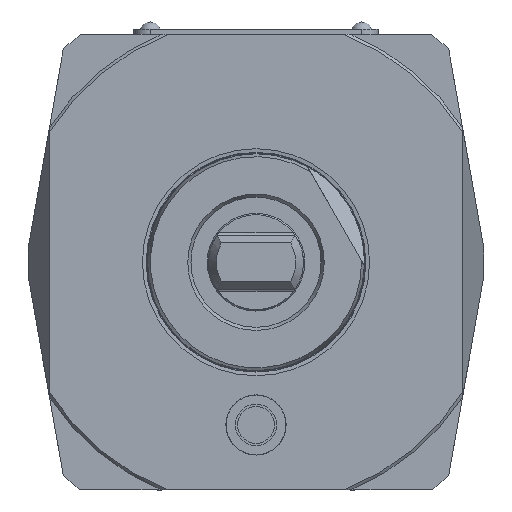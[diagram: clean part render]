
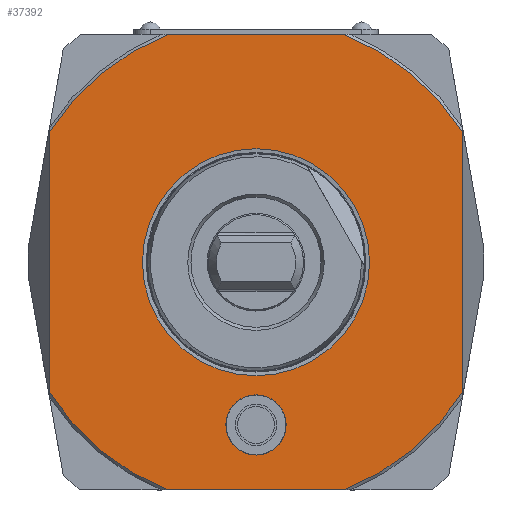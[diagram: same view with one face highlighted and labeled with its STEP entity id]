
A CAD part, left-side view. The second image highlights one B-rep face of the part: STEP entity #37392.
In plain terms, the highlighted planar face has unit normal (-1, 0, 0).
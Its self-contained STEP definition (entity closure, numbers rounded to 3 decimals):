
#16052=VECTOR('',#24981,1.);
#16065=VECTOR('',#25018,1.);
#16078=VECTOR('',#25065,1.);
#16079=VECTOR('',#25070,1.);
#16776=LINE('',#27835,#16052);
#16789=LINE('',#27873,#16065);
#16802=LINE('',#27921,#16078);
#16803=LINE('',#27925,#16079);
#17497=PLANE('',#36499);
#18256=ORIENTED_EDGE('',*,*,#22156,.F.);
#18257=ORIENTED_EDGE('',*,*,#22198,.F.);
#18258=ORIENTED_EDGE('',*,*,#22199,.F.);
#18259=ORIENTED_EDGE('',*,*,#22200,.F.);
#18260=ORIENTED_EDGE('',*,*,#22175,.F.);
#18261=ORIENTED_EDGE('',*,*,#22201,.F.);
#18262=ORIENTED_EDGE('',*,*,#22202,.F.);
#18263=ORIENTED_EDGE('',*,*,#22196,.F.);
#18264=ORIENTED_EDGE('',*,*,#22203,.F.);
#18265=ORIENTED_EDGE('',*,*,#22204,.F.);
#20850=CIRCLE('',#36497,45.);
#20851=CIRCLE('',#36500,45.);
#20852=CIRCLE('',#36501,45.);
#20853=CIRCLE('',#36502,45.);
#20854=CIRCLE('',#36503,20.94);
#20855=CIRCLE('',#36504,5.55);
#21194=VERTEX_POINT('',#27832);
#21195=VERTEX_POINT('',#27834);
#21207=VERTEX_POINT('',#27870);
#21208=VERTEX_POINT('',#27872);
#21224=VERTEX_POINT('',#27914);
#21225=VERTEX_POINT('',#27918);
#21226=VERTEX_POINT('',#27920);
#21227=VERTEX_POINT('',#27923);
#21228=VERTEX_POINT('',#27926);
#21229=VERTEX_POINT('',#27928);
#22156=EDGE_CURVE('',#21194,#21195,#16776,.T.);
#22175=EDGE_CURVE('',#21207,#21208,#16789,.T.);
#22196=EDGE_CURVE('',#21195,#21224,#20850,.T.);
#22198=EDGE_CURVE('',#21225,#21194,#20851,.T.);
#22199=EDGE_CURVE('',#21226,#21225,#16802,.T.);
#22200=EDGE_CURVE('',#21208,#21226,#20852,.T.);
#22201=EDGE_CURVE('',#21227,#21207,#20853,.T.);
#22202=EDGE_CURVE('',#21224,#21227,#16803,.T.);
#22203=EDGE_CURVE('',#21228,#21228,#20854,.T.);
#22204=EDGE_CURVE('',#21229,#21229,#20855,.T.);
#23496=EDGE_LOOP('',(#18256,#18257,#18258,#18259,#18260,#18261,#18262,#18263));
#23497=EDGE_LOOP('',(#18264));
#23498=EDGE_LOOP('',(#18265));
#24204=FACE_BOUND('',#23496,.T.);
#24205=FACE_BOUND('',#23497,.T.);
#24206=FACE_BOUND('',#23498,.T.);
#24981=DIRECTION('',(0.,32.311,0.));
#25018=DIRECTION('',(0.,-32.311,0.));
#25057=DIRECTION('',(1.,0.,0.));
#25058=DIRECTION('',(0.,16.155,-42.));
#25061=DIRECTION('',(-1.,0.,0.));
#25062=DIRECTION('',(0.,1.,0.));
#25063=DIRECTION('',(1.,0.,0.));
#25064=DIRECTION('',(0.,-38.303,-23.62));
#25065=DIRECTION('',(0.,0.,-48.208));
#25066=DIRECTION('',(1.,0.,0.));
#25067=DIRECTION('',(0.,-16.155,42.));
#25068=DIRECTION('',(1.,0.,0.));
#25069=DIRECTION('',(0.,38.303,23.62));
#25070=DIRECTION('',(0.,0.,48.208));
#25071=DIRECTION('',(-1.,0.,0.));
#25072=DIRECTION('',(0.,-18.134,10.47));
#25073=DIRECTION('',(-1.,0.,0.));
#25074=DIRECTION('',(0.,-4.806,2.775));
#27832=CARTESIAN_POINT('',(-2.171,-18.624,58.084));
#27834=CARTESIAN_POINT('',(-2.171,13.687,58.084));
#27835=CARTESIAN_POINT('',(-2.171,-18.624,58.084));
#27870=CARTESIAN_POINT('',(-2.171,13.687,142.084));
#27872=CARTESIAN_POINT('',(-2.171,-18.624,142.084));
#27873=CARTESIAN_POINT('',(-2.171,13.687,142.084));
#27914=CARTESIAN_POINT('',(-2.171,35.532,75.98));
#27915=CARTESIAN_POINT('',(-2.171,-2.468,100.084));
#27917=CARTESIAN_POINT('',(-2.171,-2.468,145.084));
#27918=CARTESIAN_POINT('',(-2.171,-40.468,75.98));
#27919=CARTESIAN_POINT('',(-2.171,-2.468,100.084));
#27920=CARTESIAN_POINT('',(-2.171,-40.468,124.188));
#27921=CARTESIAN_POINT('',(-2.171,-40.468,124.188));
#27922=CARTESIAN_POINT('',(-2.171,-2.468,100.084));
#27923=CARTESIAN_POINT('',(-2.171,35.532,124.188));
#27924=CARTESIAN_POINT('',(-2.171,-2.468,100.084));
#27925=CARTESIAN_POINT('',(-2.171,35.532,75.98));
#27926=CARTESIAN_POINT('',(-2.171,-20.602,110.554));
#27927=CARTESIAN_POINT('',(-2.171,-2.468,100.084));
#27928=CARTESIAN_POINT('',(-2.171,-7.275,72.859));
#27929=CARTESIAN_POINT('',(-2.171,-2.468,70.084));
#36497=AXIS2_PLACEMENT_3D('',#27915,#25057,#25058);
#36499=AXIS2_PLACEMENT_3D('',#27917,#25061,#25062);
#36500=AXIS2_PLACEMENT_3D('',#27919,#25063,#25064);
#36501=AXIS2_PLACEMENT_3D('',#27922,#25066,#25067);
#36502=AXIS2_PLACEMENT_3D('',#27924,#25068,#25069);
#36503=AXIS2_PLACEMENT_3D('',#27927,#25071,#25072);
#36504=AXIS2_PLACEMENT_3D('',#27929,#25073,#25074);
#37392=ADVANCED_FACE('',(#24204,#24205,#24206),#17497,.T.);
